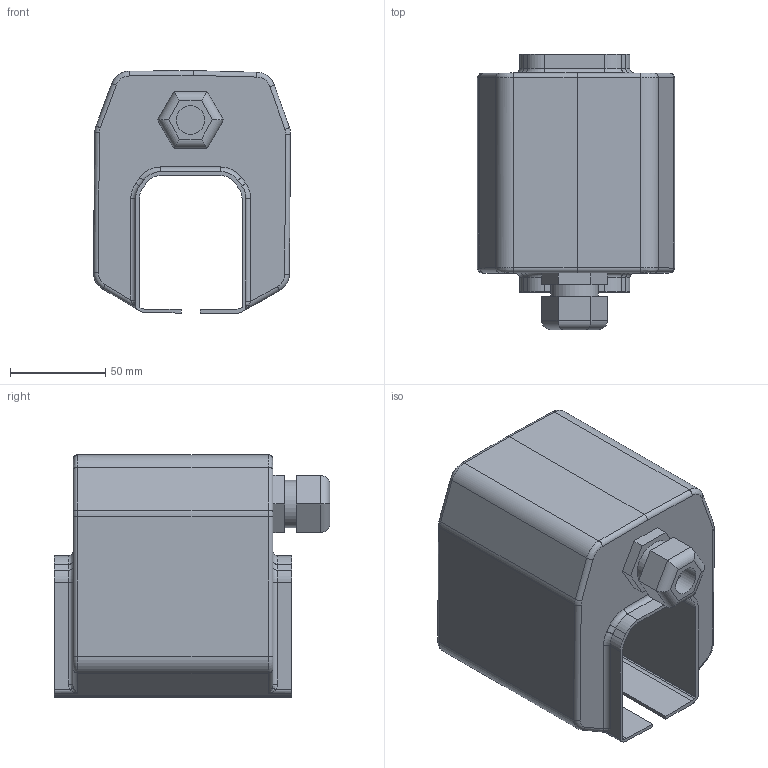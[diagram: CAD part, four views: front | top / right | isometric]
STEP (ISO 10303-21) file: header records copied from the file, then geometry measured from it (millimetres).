
FILE_DESCRIPTION(/* description */ ('Unknown'),/* implementation_level */ '2;1');
FILE_NAME(/* name */ 'MI1300_Boîte en cours M25_SPL',/* time_stamp */ '2018-08-09T17:09:01+02:00',/* author */ ('Unknown'),/* organization */ ('Unknown'),/* preprocessor_version */ 'ST-DEVELOPER v16.7',/* originating_system */ 'DEX',/* authorisation */ $);
FILE_SCHEMA (('AUTOMOTIVE_DESIGN {1 0 10303 214 3 1 1}'));
Length unit declared in the file: millimetre
Products named in the file (1): MI1300_Boîte en cours M25_SPL
Bounding box: 103.64 x 145 x 127.61 mm (x, y, z)
Volume: 927945.1 mm3; surface area: 95607 mm2
Topology: 1 solids, 1 shells, 144 faces, 359 edges, 217 vertices
Faces by surface type: cylinder 60, plane 54, torus 16, bspline 14
Full cylindrical faces by diameter (mm): 15 x1, 25 x1
Entity records: 5719 total; most frequent: CARTESIAN_POINT 1275, DIRECTION 730, ORIENTED_EDGE 704, EDGE_CURVE 352, AXIS2_PLACEMENT_3D 263, VERTEX_POINT 216, LINE 204, VECTOR 204
